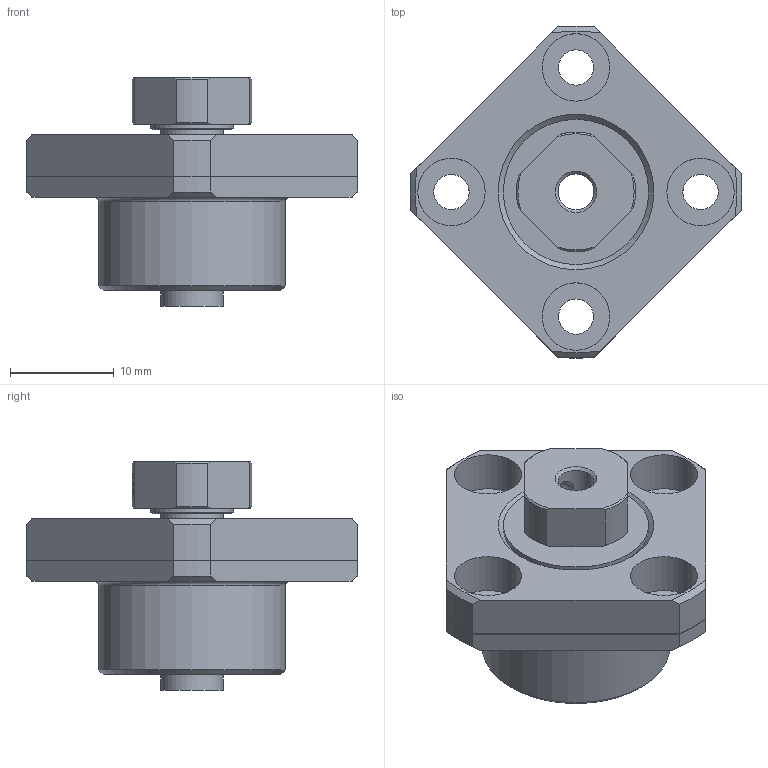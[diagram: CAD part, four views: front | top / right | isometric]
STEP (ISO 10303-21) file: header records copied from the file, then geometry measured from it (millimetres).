
FILE_DESCRIPTION(/* description */ ('STEP AP214'),/* implementation_level */ '2;1');
FILE_NAME(/* name */ 'FK4______CAD_NO_Yes-FS',/* time_stamp */ '2026-09-17T13:17:24+02:00',/* author */ ('License CC BY-ND 4.0'),/* organization */ ('CADENAS'),/* preprocessor_version */ 'ST-DEVELOPER v20',/* originating_system */ 'PARTsolutions',/* authorisation */ ' ');
FILE_SCHEMA (('AUTOMOTIVE_DESIGN {1 0 10303 214 3 1 1}'));
Length unit declared in the file: millimetre
Products named in the file (4): FK4______CAD_NO_Yes-FS; FK 4-FS-1; FK 4collar; RN 4
Assembly tree (4 placements, depth 2):
  FK4______CAD_NO_Yes-FS
    FK 4-FS-1
    FK 4collar  x2
    RN 4
Bounding box: 31.98 x 31.98 x 22 mm (x, y, z)
Volume: 5577.3 mm3; surface area: 3620.2 mm2
Topology: 4 solids, 4 shells, 107 faces, 244 edges, 160 vertices
Faces by surface type: plane 45, cylinder 38, cone 23, torus 1
Full cylindrical faces by diameter (mm): 2.113 x1, 2.6 x1, 3.4 x4, 3.459 x1, 4 x3, 6 x4, 6.5 x4, 8 x1, 14 x2, 18 x1
Entity records: 2987 total; most frequent: CARTESIAN_POINT 590, DIRECTION 486, ORIENTED_EDGE 420, EDGE_CURVE 210, AXIS2_PLACEMENT_3D 202, EDGE_LOOP 160, FACE_BOUND 160, VERTEX_POINT 156
